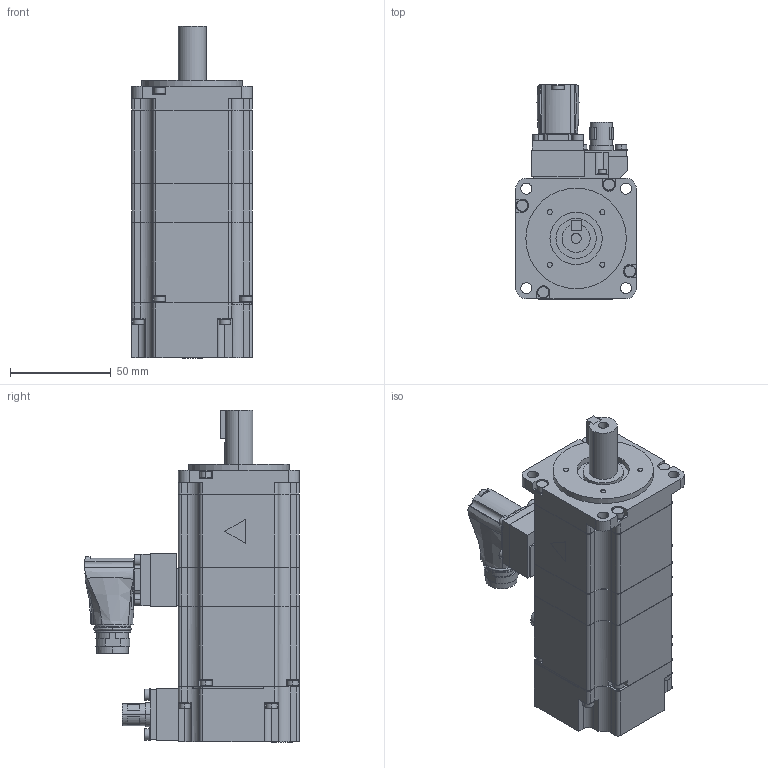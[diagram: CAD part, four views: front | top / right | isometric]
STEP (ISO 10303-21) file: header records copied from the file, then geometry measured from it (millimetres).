
FILE_DESCRIPTION (( 'STEP AP203' ), '1' );
FILE_NAME ('sgm7a_04d_f6c.STEP', '2016-03-10T04:55:02', ( '匠エンジニアリング山之内' ), ( 'TAKUMI-Engniaring' ), 'SwSTEP 2.0', 'SolidWorks 2006303', '' );
FILE_SCHEMA (( 'CONFIG_CONTROL_DESIGN' ));
Length unit declared in the file: millimetre
Products named in the file (4): sgm7a_04d_f6c_base; sgm7a_04d_f6c_key; sgm7a_04d_f6c_connector; sgm7a_04d_f6c
Assembly tree (3 placements, depth 2):
  sgm7a_04d_f6c
    sgm7a_04d_f6c_base
    sgm7a_04d_f6c_key
    sgm7a_04d_f6c_connector
Bounding box: 60.1 x 106.5 x 165.1 mm (x, y, z)
Volume: 478993.4 mm3; surface area: 54965.5 mm2
Topology: 3 solids, 3 shells, 686 faces, 1779 edges, 1170 vertices
Faces by surface type: plane 372, cylinder 303, bspline 9, torus 2
Entity records: 22245 total; most frequent: CARTESIAN_POINT 4467, DIRECTION 3780, ORIENTED_EDGE 3558, EDGE_CURVE 1779, AXIS2_PLACEMENT_3D 1363, VERTEX_POINT 1170, VECTOR 1054, LINE 1054
